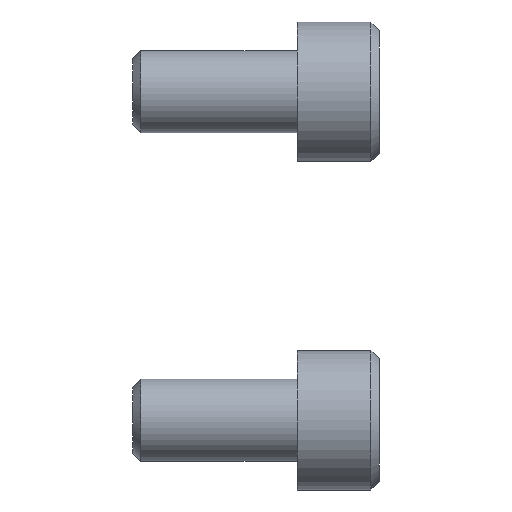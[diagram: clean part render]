
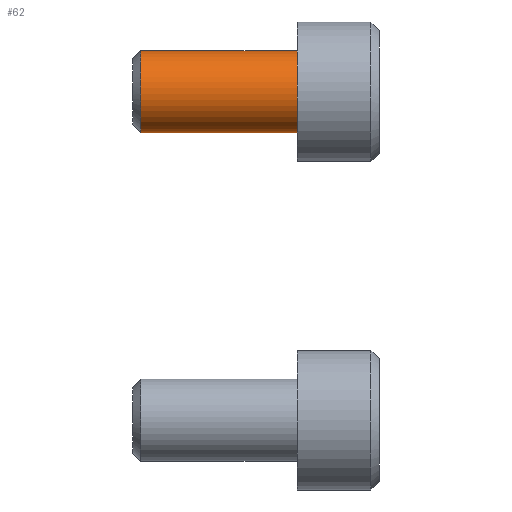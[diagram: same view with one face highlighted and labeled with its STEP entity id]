
A CAD part, left-side view. The second image highlights one B-rep face of the part: STEP entity #62.
In plain terms, the highlighted free-form (B-spline) face has degree [1, 2] with [2, 9] control points.
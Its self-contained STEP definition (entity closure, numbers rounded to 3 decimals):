
#62=ADVANCED_FACE('',(#87),#768,.T.);
#87=FACE_OUTER_BOUND('',#112,.T.);
#112=EDGE_LOOP('',(#203,#204,#205,#206));
#203=ORIENTED_EDGE('',*,*,#672,.F.);
#204=ORIENTED_EDGE('',*,*,#631,.F.);
#205=ORIENTED_EDGE('',*,*,#673,.T.);
#206=ORIENTED_EDGE('',*,*,#633,.F.);
#236=PCURVE('',#763,#344);
#238=PCURVE('',#763,#346);
#309=PCURVE('',#767,#417);
#311=PCURVE('',#768,#419);
#312=PCURVE('',#768,#420);
#313=PCURVE('',#768,#421);
#314=PCURVE('',#768,#422);
#318=PCURVE('',#759,#426);
#344=DEFINITIONAL_REPRESENTATION('',(#457),#1499);
#346=DEFINITIONAL_REPRESENTATION('',(#460),#1499);
#417=DEFINITIONAL_REPRESENTATION('',(#549),#1499);
#419=DEFINITIONAL_REPRESENTATION('',(#551),#1499);
#420=DEFINITIONAL_REPRESENTATION('',(#552),#1499);
#421=DEFINITIONAL_REPRESENTATION('',(#553),#1499);
#422=DEFINITIONAL_REPRESENTATION('',(#554),#1499);
#426=DEFINITIONAL_REPRESENTATION('',(#708),#1499);
#456=B_SPLINE_CURVE_WITH_KNOTS('',1,(#1140,#1141),.UNSPECIFIED.,.F.,.F.,
(2,2),(0.,9.51),.UNSPECIFIED.);
#457=B_SPLINE_CURVE_WITH_KNOTS('',1,(#1142,#1143),.UNSPECIFIED.,.F.,.F.,
(2,2),(0.,9.51),.UNSPECIFIED.);
#459=B_SPLINE_CURVE_WITH_KNOTS('',1,(#1151,#1152),.UNSPECIFIED.,.F.,.F.,
(2,2),(0.,9.51),.UNSPECIFIED.);
#460=B_SPLINE_CURVE_WITH_KNOTS('',1,(#1153,#1154),.UNSPECIFIED.,.F.,.F.,
(2,2),(0.,9.51),.UNSPECIFIED.);
#549=B_SPLINE_CURVE_WITH_KNOTS('',1,(#1404,#1405),.UNSPECIFIED.,.F.,.F.,
(2,2),(0.,7.854),.UNSPECIFIED.);
#551=B_SPLINE_CURVE_WITH_KNOTS('',1,(#1408,#1409),.UNSPECIFIED.,.F.,.F.,
(2,2),(0.,7.854),.UNSPECIFIED.);
#552=B_SPLINE_CURVE_WITH_KNOTS('',1,(#1410,#1411),.UNSPECIFIED.,.F.,.F.,
(2,2),(0.,9.51),.UNSPECIFIED.);
#553=B_SPLINE_CURVE_WITH_KNOTS('',1,(#1417,#1418),.UNSPECIFIED.,.F.,.F.,
(2,2),(0.,7.854),.UNSPECIFIED.);
#554=B_SPLINE_CURVE_WITH_KNOTS('',1,(#1419,#1420),.UNSPECIFIED.,.F.,.F.,
(2,2),(0.,9.51),.UNSPECIFIED.);
#577=SURFACE_CURVE('',#456,(#236,#312),.PCURVE_S1.);
#579=SURFACE_CURVE('',#459,(#238,#314),.PCURVE_S1.);
#618=SURFACE_CURVE('',#702,(#309,#311),.PCURVE_S1.);
#619=SURFACE_CURVE('',#703,(#313,#318),.PCURVE_S1.);
#631=EDGE_CURVE('',#722,#721,#577,.T.);
#633=EDGE_CURVE('',#720,#719,#579,.T.);
#672=EDGE_CURVE('',#721,#720,#618,.T.);
#673=EDGE_CURVE('',#722,#719,#619,.T.);
#702=(
BOUNDED_CURVE()
B_SPLINE_CURVE(2,(#1399,#1400,#1401,#1402,#1403),.UNSPECIFIED.,.F.,.F.)
B_SPLINE_CURVE_WITH_KNOTS((3,2,3),(0.,3.927,7.854),
 .UNSPECIFIED.)
CURVE()
GEOMETRIC_REPRESENTATION_ITEM()
RATIONAL_B_SPLINE_CURVE((1.,0.707,1.,0.707,1.))
REPRESENTATION_ITEM('')
);
#703=(
BOUNDED_CURVE()
B_SPLINE_CURVE(2,(#1412,#1413,#1414,#1415,#1416),.UNSPECIFIED.,.F.,.F.)
B_SPLINE_CURVE_WITH_KNOTS((3,2,3),(0.,3.927,7.854),
 .UNSPECIFIED.)
CURVE()
GEOMETRIC_REPRESENTATION_ITEM()
RATIONAL_B_SPLINE_CURVE((1.,0.707,1.,0.707,1.))
REPRESENTATION_ITEM('')
);
#708=(
BOUNDED_CURVE()
B_SPLINE_CURVE(2,(#1441,#1442,#1443,#1444,#1445),.UNSPECIFIED.,.F.,.F.)
B_SPLINE_CURVE_WITH_KNOTS((3,2,3),(0.,3.927,7.854),
 .UNSPECIFIED.)
CURVE()
GEOMETRIC_REPRESENTATION_ITEM()
RATIONAL_B_SPLINE_CURVE((1.,0.707,1.,0.707,1.))
REPRESENTATION_ITEM('')
);
#719=VERTEX_POINT('',#1067);
#720=VERTEX_POINT('',#1068);
#721=VERTEX_POINT('',#1069);
#722=VERTEX_POINT('',#1070);
#759=PLANE('',#828);
#763=(
BOUNDED_SURFACE()
B_SPLINE_SURFACE(1,2,((#902,#903,#904,#905,#906,#907,#908,#909,#910),(#911,
#912,#913,#914,#915,#916,#917,#918,#919)),.UNSPECIFIED.,.F.,.F.,.F.)
B_SPLINE_SURFACE_WITH_KNOTS((2,2),(3,2,2,2,3),(0.,11.414),(0.,1.571,
3.142,4.712,6.283),.UNSPECIFIED.)
GEOMETRIC_REPRESENTATION_ITEM()
RATIONAL_B_SPLINE_SURFACE(((1.,0.707,1.,0.707,1.,
0.707,1.,0.707,1.),(1.,0.707,1.,0.707,
1.,0.707,1.,0.707,1.)))
REPRESENTATION_ITEM('')
SURFACE()
);
#767=(
BOUNDED_SURFACE()
B_SPLINE_SURFACE(1,2,((#987,#988,#989,#990,#991,#992,#993,#994,#995),(#996,
#997,#998,#999,#1000,#1001,#1002,#1003,#1004)),.UNSPECIFIED.,.F.,.F.,.F.)
B_SPLINE_SURFACE_WITH_KNOTS((2,2),(3,2,2,2,3),(0.,3.891),(0.,
1.571,3.142,4.712,6.283),
 .UNSPECIFIED.)
GEOMETRIC_REPRESENTATION_ITEM()
RATIONAL_B_SPLINE_SURFACE(((1.,0.707,1.,0.707,1.,
0.707,1.,0.707,1.),(1.,0.707,1.,0.707,
1.,0.707,1.,0.707,1.)))
REPRESENTATION_ITEM('')
SURFACE()
);
#768=(
BOUNDED_SURFACE()
B_SPLINE_SURFACE(1,2,((#1005,#1006,#1007,#1008,#1009,#1010,#1011,#1012,#1013),
(#1014,#1015,#1016,#1017,#1018,#1019,#1020,#1021,#1022)),.UNSPECIFIED.,.F.,
 .F.,.F.)
B_SPLINE_SURFACE_WITH_KNOTS((2,2),(3,2,2,2,3),(0.,11.414),(0.,1.571,
3.142,4.712,6.283),.UNSPECIFIED.)
GEOMETRIC_REPRESENTATION_ITEM()
RATIONAL_B_SPLINE_SURFACE(((1.,0.707,1.,0.707,1.,
0.707,1.,0.707,1.),(1.,0.707,1.,0.707,
1.,0.707,1.,0.707,1.)))
REPRESENTATION_ITEM('')
SURFACE()
);
#828=AXIS2_PLACEMENT_3D('',#1023,#852,$);
#852=DIRECTION('',(1.,0.,0.));
#902=CARTESIAN_POINT('',(-0.952,2.5,0.));
#903=CARTESIAN_POINT('',(-0.952,2.5,-2.5));
#904=CARTESIAN_POINT('',(-0.952,0.,-2.5));
#905=CARTESIAN_POINT('',(-0.952,-2.5,-2.5));
#906=CARTESIAN_POINT('',(-0.952,-2.5,0.));
#907=CARTESIAN_POINT('',(-0.952,-2.5,2.5));
#908=CARTESIAN_POINT('',(-0.952,0.,2.5));
#909=CARTESIAN_POINT('',(-0.952,2.5,2.5));
#910=CARTESIAN_POINT('',(-0.952,2.5,0.));
#911=CARTESIAN_POINT('',(10.462,2.5,0.));
#912=CARTESIAN_POINT('',(10.462,2.5,-2.5));
#913=CARTESIAN_POINT('',(10.462,0.,-2.5));
#914=CARTESIAN_POINT('',(10.462,-2.5,-2.5));
#915=CARTESIAN_POINT('',(10.462,-2.5,0.));
#916=CARTESIAN_POINT('',(10.462,-2.5,2.5));
#917=CARTESIAN_POINT('',(10.462,0.,2.5));
#918=CARTESIAN_POINT('',(10.462,2.5,2.5));
#919=CARTESIAN_POINT('',(10.462,2.5,0.));
#987=CARTESIAN_POINT('',(12.01,0.,0.));
#988=CARTESIAN_POINT('',(12.01,0.,0.));
#989=CARTESIAN_POINT('',(12.01,0.,0.));
#990=CARTESIAN_POINT('',(12.01,0.,0.));
#991=CARTESIAN_POINT('',(12.01,0.,0.));
#992=CARTESIAN_POINT('',(12.01,0.,0.));
#993=CARTESIAN_POINT('',(12.01,0.,0.));
#994=CARTESIAN_POINT('',(12.01,0.,0.));
#995=CARTESIAN_POINT('',(12.01,0.,0.));
#996=CARTESIAN_POINT('',(9.258,-2.751,0.));
#997=CARTESIAN_POINT('',(9.258,-2.751,-2.751));
#998=CARTESIAN_POINT('',(9.258,0.,-2.751));
#999=CARTESIAN_POINT('',(9.258,2.751,-2.751));
#1000=CARTESIAN_POINT('',(9.258,2.751,0.));
#1001=CARTESIAN_POINT('',(9.258,2.751,2.751));
#1002=CARTESIAN_POINT('',(9.258,0.,2.751));
#1003=CARTESIAN_POINT('',(9.258,-2.751,2.751));
#1004=CARTESIAN_POINT('',(9.258,-2.751,0.));
#1005=CARTESIAN_POINT('',(-0.952,-2.5,0.));
#1006=CARTESIAN_POINT('',(-0.952,-2.5,2.5));
#1007=CARTESIAN_POINT('',(-0.952,0.,2.5));
#1008=CARTESIAN_POINT('',(-0.952,2.5,2.5));
#1009=CARTESIAN_POINT('',(-0.952,2.5,0.));
#1010=CARTESIAN_POINT('',(-0.952,2.5,-2.5));
#1011=CARTESIAN_POINT('',(-0.952,0.,-2.5));
#1012=CARTESIAN_POINT('',(-0.952,-2.5,-2.5));
#1013=CARTESIAN_POINT('',(-0.952,-2.5,0.));
#1014=CARTESIAN_POINT('',(10.462,-2.5,0.));
#1015=CARTESIAN_POINT('',(10.462,-2.5,2.5));
#1016=CARTESIAN_POINT('',(10.462,0.,2.5));
#1017=CARTESIAN_POINT('',(10.462,2.5,2.5));
#1018=CARTESIAN_POINT('',(10.462,2.5,0.));
#1019=CARTESIAN_POINT('',(10.462,2.5,-2.5));
#1020=CARTESIAN_POINT('',(10.462,0.,-2.5));
#1021=CARTESIAN_POINT('',(10.462,-2.5,-2.5));
#1022=CARTESIAN_POINT('',(10.462,-2.5,0.));
#1023=CARTESIAN_POINT('',(0.,5.101,5.101));
#1067=CARTESIAN_POINT('',(0.,0.,2.5));
#1068=CARTESIAN_POINT('',(9.51,0.,2.5));
#1069=CARTESIAN_POINT('',(9.51,0.,-2.5));
#1070=CARTESIAN_POINT('',(0.,0.,-2.5));
#1140=CARTESIAN_POINT('',(0.,0.,-2.5));
#1141=CARTESIAN_POINT('',(9.51,0.,-2.5));
#1142=CARTESIAN_POINT('',(0.952,1.571));
#1143=CARTESIAN_POINT('',(10.462,1.571));
#1151=CARTESIAN_POINT('',(9.51,0.,2.5));
#1152=CARTESIAN_POINT('',(0.,0.,2.5));
#1153=CARTESIAN_POINT('',(10.462,4.712));
#1154=CARTESIAN_POINT('',(0.952,4.712));
#1399=CARTESIAN_POINT('',(9.51,0.,-2.5));
#1400=CARTESIAN_POINT('',(9.51,2.5,-2.5));
#1401=CARTESIAN_POINT('',(9.51,2.5,0.));
#1402=CARTESIAN_POINT('',(9.51,2.5,2.5));
#1403=CARTESIAN_POINT('',(9.51,0.,2.5));
#1404=CARTESIAN_POINT('',(3.536,1.571));
#1405=CARTESIAN_POINT('',(3.536,4.712));
#1408=CARTESIAN_POINT('',(10.462,4.712));
#1409=CARTESIAN_POINT('',(10.462,1.571));
#1410=CARTESIAN_POINT('',(0.952,4.712));
#1411=CARTESIAN_POINT('',(10.462,4.712));
#1412=CARTESIAN_POINT('',(0.,0.,-2.5));
#1413=CARTESIAN_POINT('',(0.,2.5,-2.5));
#1414=CARTESIAN_POINT('',(0.,2.5,0.));
#1415=CARTESIAN_POINT('',(0.,2.5,2.5));
#1416=CARTESIAN_POINT('',(0.,0.,2.5));
#1417=CARTESIAN_POINT('',(0.952,4.712));
#1418=CARTESIAN_POINT('',(0.952,1.571));
#1419=CARTESIAN_POINT('',(10.462,1.571));
#1420=CARTESIAN_POINT('',(0.952,1.571));
#1441=CARTESIAN_POINT('',(0.,5.875));
#1442=CARTESIAN_POINT('',(-2.5,5.875));
#1443=CARTESIAN_POINT('',(-2.5,3.375));
#1444=CARTESIAN_POINT('',(-2.5,0.875));
#1445=CARTESIAN_POINT('',(0.,0.875));
#1499=(
GEOMETRIC_REPRESENTATION_CONTEXT(2)
PARAMETRIC_REPRESENTATION_CONTEXT()
REPRESENTATION_CONTEXT('pspace','')
);
